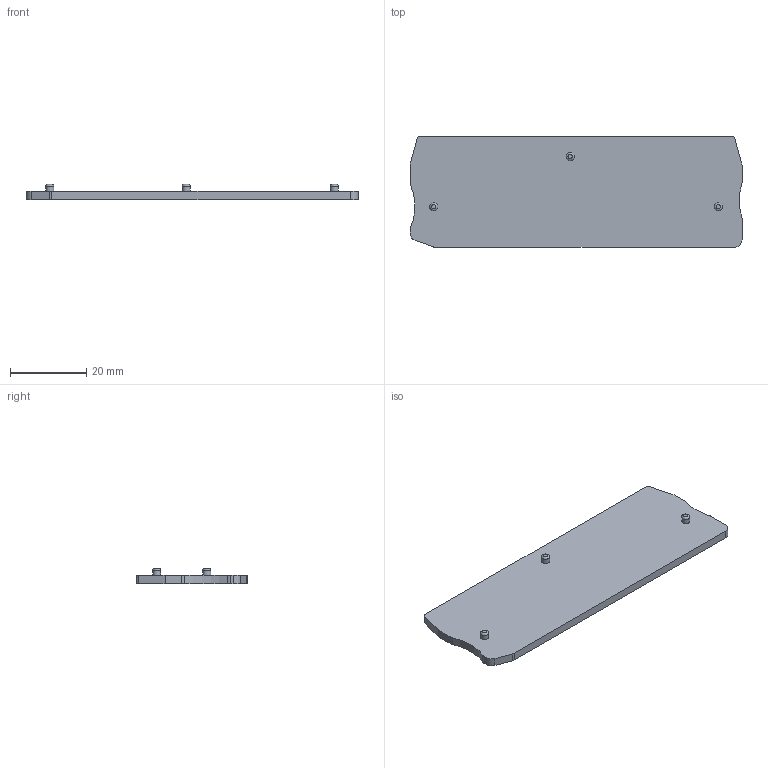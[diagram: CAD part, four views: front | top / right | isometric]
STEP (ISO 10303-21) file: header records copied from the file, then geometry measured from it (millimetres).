
FILE_DESCRIPTION(/* description */ (''),/* implementation_level */ '2;1');
FILE_NAME(/* name */ '815269_MTS_PFO4.stp',/* time_stamp */ '2019-03-14T17:52:13+08:00',/* author */ (''),/* organization */ (''),/* preprocessor_version */ 'ST-DEVELOPER v11',/* originating_system */ 'SIEMENS UGS NX 6.0',/* authorisation */ '');
FILE_SCHEMA (('AUTOMOTIVE_DESIGN { 1 0 10303 214 1 1 1 1 }'));
Length unit declared in the file: millimetre
Products named in the file (1): 815269_MTS_PFO4
Bounding box: 87.3 x 29.1 x 4 mm (x, y, z)
Volume: 5522.8 mm3; surface area: 5533.8 mm2
Topology: 1 solids, 1 shells, 31 faces, 75 edges, 49 vertices
Faces by surface type: plane 14, cylinder 14, torus 3
Full cylindrical faces by diameter (mm): 2.124 x3
Entity records: 911 total; most frequent: DIRECTION 163, CARTESIAN_POINT 153, ORIENTED_EDGE 138, EDGE_CURVE 69, AXIS2_PLACEMENT_3D 63, VERTEX_POINT 49, EDGE_LOOP 40, LINE 37
